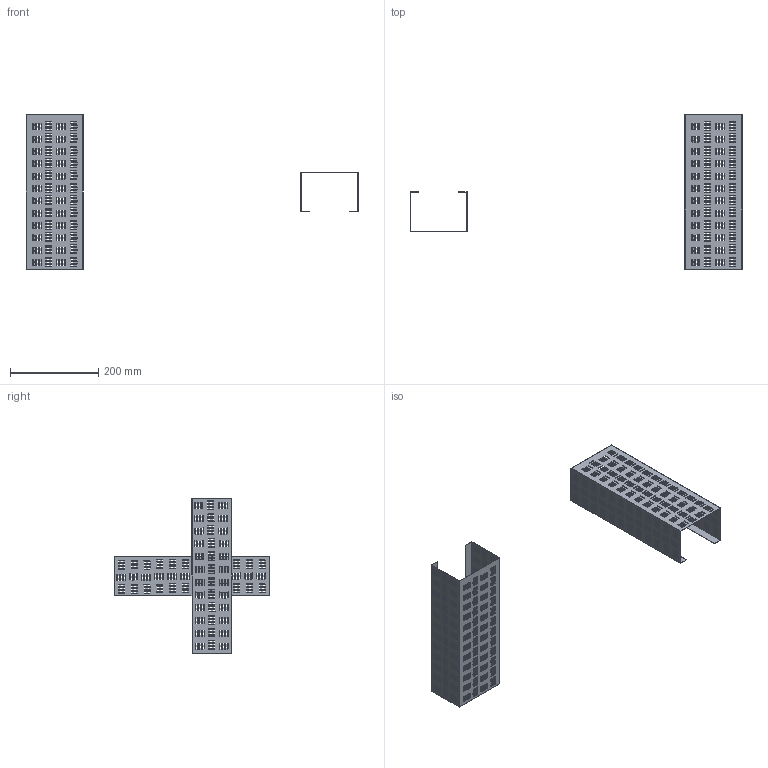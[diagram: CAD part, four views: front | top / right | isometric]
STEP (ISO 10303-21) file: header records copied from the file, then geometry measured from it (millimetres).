
FILE_DESCRIPTION( ( 'STEP AP203' ), '1' );
FILE_NAME( '//srvbf/BF Disegni/AMALFI/AMALFI-A 3D.stp', '2020-10-26T17:03:35', ( ' ' ), ( ' ' ), 'XStep 1.0', ' ', ' ' );
FILE_SCHEMA( ( 'CONFIG_CONTROL_DESIGN) ( )' ) );
Length unit declared in the file: metre
Products named in the file (2): Assem1; 1
Bounding box: 753.09 x 350 x 350 mm (x, y, z)
Volume: 166545.8 mm3; surface area: 459637.3 mm2
Topology: 2 solids, 2 shells, 4836 faces, 14496 edges, 9664 vertices
Faces by surface type: plane 2428, cylinder 2408
Entity records: 84652 total; most frequent: CARTESIAN_POINT 14500, DIRECTION 14496, ORIENTED_EDGE 14496, EDGE_CURVE 7248, LINE 4840, VECTOR 4840, VERTEX_POINT 4832, AXIS2_PLACEMENT_3D 4828
